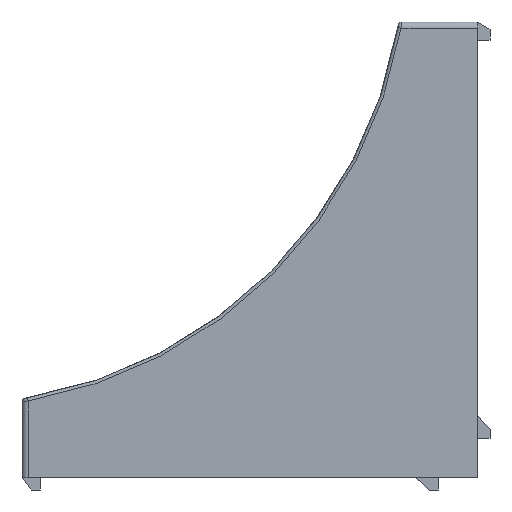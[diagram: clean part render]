
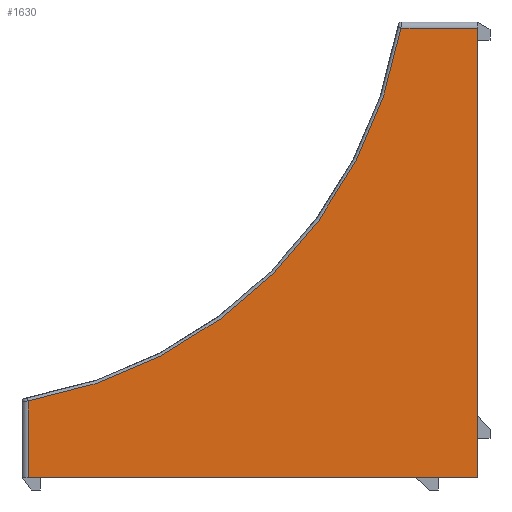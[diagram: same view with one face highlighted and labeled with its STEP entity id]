
A CAD part, left-side view. The second image highlights one B-rep face of the part: STEP entity #1630.
In plain terms, the highlighted planar face has unit normal (-1, 0, 0).
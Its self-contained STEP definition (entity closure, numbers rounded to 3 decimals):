
#136 = AXIS2_PLACEMENT_3D ( 'NONE', #4005, #685, #4455 ) ;
#306 = VECTOR ( 'NONE', #509, 1000. ) ;
#418 = CARTESIAN_POINT ( 'NONE',  ( -37.5, 74., 0. ) ) ;
#504 = CARTESIAN_POINT ( 'NONE',  ( -37.5, 74., 12.662 ) ) ;
#509 = DIRECTION ( 'NONE',  ( 0., 0., -1. ) ) ;
#514 = EDGE_LOOP ( 'NONE', ( #5774, #3098, #562, #3376, #2591 ) ) ;
#562 = ORIENTED_EDGE ( 'NONE', *, *, #6007, .T. ) ;
#685 = DIRECTION ( 'NONE',  ( -1., 0., 0. ) ) ;
#692 = DIRECTION ( 'NONE',  ( 1., 0., 0. ) ) ;
#830 = VERTEX_POINT ( 'NONE', #2217 ) ;
#1031 = CIRCLE ( 'NONE', #3031, 75.5 ) ;
#1424 = DIRECTION ( 'NONE',  ( 0., 1., 0. ) ) ;
#1630 = ADVANCED_FACE ( 'NONE', ( #4538 ), #2149, .T. ) ;
#2149 = PLANE ( 'NONE',  #136 ) ;
#2153 = CARTESIAN_POINT ( 'NONE',  ( -37.5, 0., 0. ) ) ;
#2217 = CARTESIAN_POINT ( 'NONE',  ( -37.5, 12.662, 74. ) ) ;
#2290 = EDGE_CURVE ( 'NONE', #5156, #4153, #4904, .T. ) ;
#2311 = EDGE_CURVE ( 'NONE', #830, #2970, #1031, .T. ) ;
#2416 = CARTESIAN_POINT ( 'NONE',  ( -37.5, 74., 0. ) ) ;
#2513 = CARTESIAN_POINT ( 'NONE',  ( -37.5, 75., 0. ) ) ;
#2525 = CARTESIAN_POINT ( 'NONE',  ( -37.5, 0., 74. ) ) ;
#2591 = ORIENTED_EDGE ( 'NONE', *, *, #5583, .F. ) ;
#2817 = CARTESIAN_POINT ( 'NONE',  ( -37.5, 0., 0. ) ) ;
#2970 = VERTEX_POINT ( 'NONE', #504 ) ;
#3031 = AXIS2_PLACEMENT_3D ( 'NONE', #3473, #692, #3954 ) ;
#3054 = LINE ( 'NONE', #418, #5547 ) ;
#3098 = ORIENTED_EDGE ( 'NONE', *, *, #2311, .T. ) ;
#3376 = ORIENTED_EDGE ( 'NONE', *, *, #2290, .F. ) ;
#3462 = VERTEX_POINT ( 'NONE', #2525 ) ;
#3473 = CARTESIAN_POINT ( 'NONE',  ( -37.5, 87.029, 87.029 ) ) ;
#3664 = DIRECTION ( 'NONE',  ( 0., 0., -1. ) ) ;
#3876 = VECTOR ( 'NONE', #1424, 1000. ) ;
#3954 = DIRECTION ( 'NONE',  ( 0., 0., 1. ) ) ;
#4005 = CARTESIAN_POINT ( 'NONE',  ( -37.5, 0., 0. ) ) ;
#4153 = VERTEX_POINT ( 'NONE', #2416 ) ;
#4455 = DIRECTION ( 'NONE',  ( 0., 0., 1. ) ) ;
#4538 = FACE_OUTER_BOUND ( 'NONE', #514, .T. ) ;
#4761 = VECTOR ( 'NONE', #5319, 1000. ) ;
#4904 = LINE ( 'NONE', #2513, #4761 ) ;
#5122 = LINE ( 'NONE', #5173, #3876 ) ;
#5156 = VERTEX_POINT ( 'NONE', #2153 ) ;
#5173 = CARTESIAN_POINT ( 'NONE',  ( -37.5, 13., 74. ) ) ;
#5278 = LINE ( 'NONE', #2817, #306 ) ;
#5319 = DIRECTION ( 'NONE',  ( 0., 1., 0. ) ) ;
#5547 = VECTOR ( 'NONE', #3664, 1000. ) ;
#5583 = EDGE_CURVE ( 'NONE', #3462, #5156, #5278, .T. ) ;
#5601 = EDGE_CURVE ( 'NONE', #3462, #830, #5122, .T. ) ;
#5774 = ORIENTED_EDGE ( 'NONE', *, *, #5601, .T. ) ;
#6007 = EDGE_CURVE ( 'NONE', #2970, #4153, #3054, .T. ) ;
